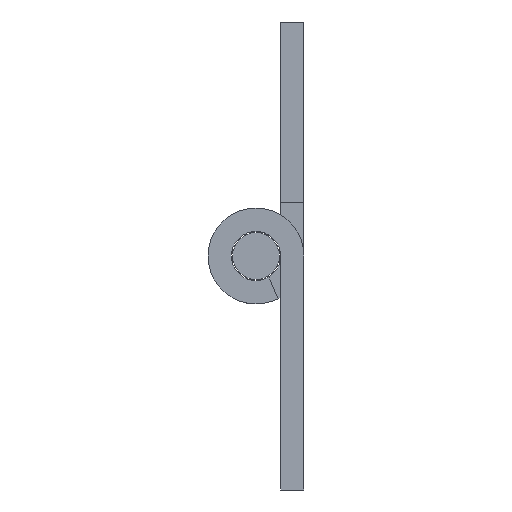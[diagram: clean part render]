
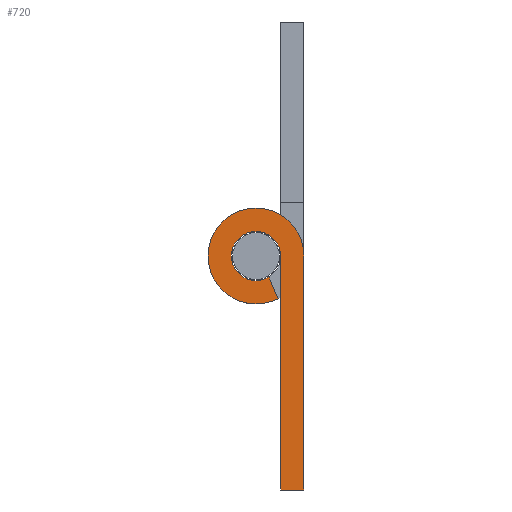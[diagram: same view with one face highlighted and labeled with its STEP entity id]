
A CAD part, left-side view. The second image highlights one B-rep face of the part: STEP entity #720.
In plain terms, the highlighted planar face has unit normal (-1, 0, 0).
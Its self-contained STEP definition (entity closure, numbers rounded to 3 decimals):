
#67 = CARTESIAN_POINT ( 'NONE',  ( -50., 6.15, 0. ) ) ;
#201 = DIRECTION ( 'NONE',  ( 0., 0., -1. ) ) ;
#216 = CARTESIAN_POINT ( 'NONE',  ( -50., 6.15, 0. ) ) ;
#267 = EDGE_CURVE ( 'NONE', #442, #913, #1938, .T. ) ;
#304 = AXIS2_PLACEMENT_3D ( 'NONE', #216, #1190, #201 ) ;
#313 = CARTESIAN_POINT ( 'NONE',  ( -50., 6.15, 0. ) ) ;
#382 = CARTESIAN_POINT ( 'NONE',  ( -50., 3., 0. ) ) ;
#386 = EDGE_CURVE ( 'NONE', #913, #609, #501, .T. ) ;
#402 = VERTEX_POINT ( 'NONE', #2518 ) ;
#442 = VERTEX_POINT ( 'NONE', #2274 ) ;
#465 = DIRECTION ( 'NONE',  ( -1., 0., 0. ) ) ;
#468 = DIRECTION ( 'NONE',  ( -1., 0., 0. ) ) ;
#489 = CIRCLE ( 'NONE', #1821, 6.15 ) ;
#493 = LINE ( 'NONE', #755, #2256 ) ;
#499 = DIRECTION ( 'NONE',  ( 0., 0.001, 1. ) ) ;
#501 = CIRCLE ( 'NONE', #2303, 3.15 ) ;
#524 = CARTESIAN_POINT ( 'NONE',  ( -50., 6.15, 0. ) ) ;
#532 = DIRECTION ( 'NONE',  ( 0., 0., -1. ) ) ;
#541 = VERTEX_POINT ( 'NONE', #1144 ) ;
#546 = CARTESIAN_POINT ( 'NONE',  ( -50., 6.15, -3.15 ) ) ;
#558 = ORIENTED_EDGE ( 'NONE', *, *, #2795, .F. ) ;
#564 = DIRECTION ( 'NONE',  ( -1., 0., 0. ) ) ;
#578 = EDGE_CURVE ( 'NONE', #1650, #541, #2866, .T. ) ;
#609 = VERTEX_POINT ( 'NONE', #2192 ) ;
#678 = DIRECTION ( 'NONE',  ( 1., 0., 0. ) ) ;
#699 = CIRCLE ( 'NONE', #2087, 6.15 ) ;
#720 = ADVANCED_FACE ( 'NONE', ( #1947 ), #923, .F. ) ;
#755 = CARTESIAN_POINT ( 'NONE',  ( -50., 3., 0. ) ) ;
#807 = CIRCLE ( 'NONE', #1561, 6.15 ) ;
#862 = LINE ( 'NONE', #2585, #2652 ) ;
#913 = VERTEX_POINT ( 'NONE', #546 ) ;
#923 = PLANE ( 'NONE',  #304 ) ;
#935 = VERTEX_POINT ( 'NONE', #2240 ) ;
#991 = DIRECTION ( 'NONE',  ( 0., 0., -1. ) ) ;
#1017 = ORIENTED_EDGE ( 'NONE', *, *, #2180, .F. ) ;
#1114 = CARTESIAN_POINT ( 'NONE',  ( -50., 0., -30. ) ) ;
#1144 = CARTESIAN_POINT ( 'NONE',  ( -50., 3., -30. ) ) ;
#1156 = ORIENTED_EDGE ( 'NONE', *, *, #1879, .F. ) ;
#1163 = VERTEX_POINT ( 'NONE', #1832 ) ;
#1190 = DIRECTION ( 'NONE',  ( 1., 0., 0. ) ) ;
#1242 = VECTOR ( 'NONE', #3047, 1000. ) ;
#1377 = VECTOR ( 'NONE', #1381, 1000. ) ;
#1381 = DIRECTION ( 'NONE',  ( 0., 1., 0. ) ) ;
#1467 = DIRECTION ( 'NONE',  ( 0., -0.879, -0.477 ) ) ;
#1496 = ORIENTED_EDGE ( 'NONE', *, *, #1637, .F. ) ;
#1508 = EDGE_LOOP ( 'NONE', ( #2845, #1017, #2126, #2619, #1805, #558, #3021, #2953, #1496, #1156, #2909 ) ) ;
#1561 = AXIS2_PLACEMENT_3D ( 'NONE', #2886, #678, #1657 ) ;
#1567 = VERTEX_POINT ( 'NONE', #382 ) ;
#1627 = VERTEX_POINT ( 'NONE', #2048 ) ;
#1629 = EDGE_CURVE ( 'NONE', #1163, #935, #489, .T. ) ;
#1637 = EDGE_CURVE ( 'NONE', #1972, #1650, #862, .T. ) ;
#1650 = VERTEX_POINT ( 'NONE', #2032 ) ;
#1657 = DIRECTION ( 'NONE',  ( 0., 0., -1. ) ) ;
#1676 = CARTESIAN_POINT ( 'NONE',  ( -50., 6.15, 0. ) ) ;
#1717 = LINE ( 'NONE', #2732, #2347 ) ;
#1805 = ORIENTED_EDGE ( 'NONE', *, *, #2698, .F. ) ;
#1821 = AXIS2_PLACEMENT_3D ( 'NONE', #313, #2082, #2531 ) ;
#1832 = CARTESIAN_POINT ( 'NONE',  ( -50., 3.327, -5.464 ) ) ;
#1879 = EDGE_CURVE ( 'NONE', #1627, #1972, #807, .T. ) ;
#1908 = EDGE_CURVE ( 'NONE', #935, #1627, #699, .T. ) ;
#1923 = AXIS2_PLACEMENT_3D ( 'NONE', #524, #468, #3152 ) ;
#1938 = CIRCLE ( 'NONE', #2705, 3.15 ) ;
#1947 = FACE_OUTER_BOUND ( 'NONE', #1508, .T. ) ;
#1965 = CARTESIAN_POINT ( 'NONE',  ( -50., 6.15, 0. ) ) ;
#1972 = VERTEX_POINT ( 'NONE', #2182 ) ;
#2015 = EDGE_CURVE ( 'NONE', #541, #402, #1717, .T. ) ;
#2032 = CARTESIAN_POINT ( 'NONE',  ( -50., 0., -30. ) ) ;
#2048 = CARTESIAN_POINT ( 'NONE',  ( -50., 6.15, 6.15 ) ) ;
#2082 = DIRECTION ( 'NONE',  ( 1., 0., 0. ) ) ;
#2087 = AXIS2_PLACEMENT_3D ( 'NONE', #1965, #2720, #991 ) ;
#2126 = ORIENTED_EDGE ( 'NONE', *, *, #386, .F. ) ;
#2180 = EDGE_CURVE ( 'NONE', #609, #1163, #2260, .T. ) ;
#2182 = CARTESIAN_POINT ( 'NONE',  ( -50., 0., 0. ) ) ;
#2192 = CARTESIAN_POINT ( 'NONE',  ( -50., 4.499, -2.683 ) ) ;
#2240 = CARTESIAN_POINT ( 'NONE',  ( -50., 6.15, -6.15 ) ) ;
#2256 = VECTOR ( 'NONE', #1467, 1000. ) ;
#2260 = LINE ( 'NONE', #2548, #1242 ) ;
#2274 = CARTESIAN_POINT ( 'NONE',  ( -50., 6.15, 3.15 ) ) ;
#2303 = AXIS2_PLACEMENT_3D ( 'NONE', #67, #564, #532 ) ;
#2347 = VECTOR ( 'NONE', #499, 1000. ) ;
#2398 = CIRCLE ( 'NONE', #1923, 3.15 ) ;
#2424 = DIRECTION ( 'NONE',  ( 0., 0., -1. ) ) ;
#2518 = CARTESIAN_POINT ( 'NONE',  ( -50., 3.018, 0.01 ) ) ;
#2531 = DIRECTION ( 'NONE',  ( 0., 0., -1. ) ) ;
#2548 = CARTESIAN_POINT ( 'NONE',  ( -50., 3.327, -5.464 ) ) ;
#2585 = CARTESIAN_POINT ( 'NONE',  ( -50., 0., 0. ) ) ;
#2619 = ORIENTED_EDGE ( 'NONE', *, *, #267, .F. ) ;
#2652 = VECTOR ( 'NONE', #2771, 1000. ) ;
#2698 = EDGE_CURVE ( 'NONE', #1567, #442, #2398, .T. ) ;
#2705 = AXIS2_PLACEMENT_3D ( 'NONE', #1676, #465, #2424 ) ;
#2720 = DIRECTION ( 'NONE',  ( 1., 0., 0. ) ) ;
#2732 = CARTESIAN_POINT ( 'NONE',  ( -50., 3., -30. ) ) ;
#2771 = DIRECTION ( 'NONE',  ( 0., 0., -1. ) ) ;
#2795 = EDGE_CURVE ( 'NONE', #402, #1567, #493, .T. ) ;
#2845 = ORIENTED_EDGE ( 'NONE', *, *, #1629, .F. ) ;
#2866 = LINE ( 'NONE', #1114, #1377 ) ;
#2886 = CARTESIAN_POINT ( 'NONE',  ( -50., 6.15, 0. ) ) ;
#2909 = ORIENTED_EDGE ( 'NONE', *, *, #1908, .F. ) ;
#2953 = ORIENTED_EDGE ( 'NONE', *, *, #578, .F. ) ;
#3021 = ORIENTED_EDGE ( 'NONE', *, *, #2015, .F. ) ;
#3047 = DIRECTION ( 'NONE',  ( 0., -0.388, -0.921 ) ) ;
#3152 = DIRECTION ( 'NONE',  ( 0., 0., -1. ) ) ;
